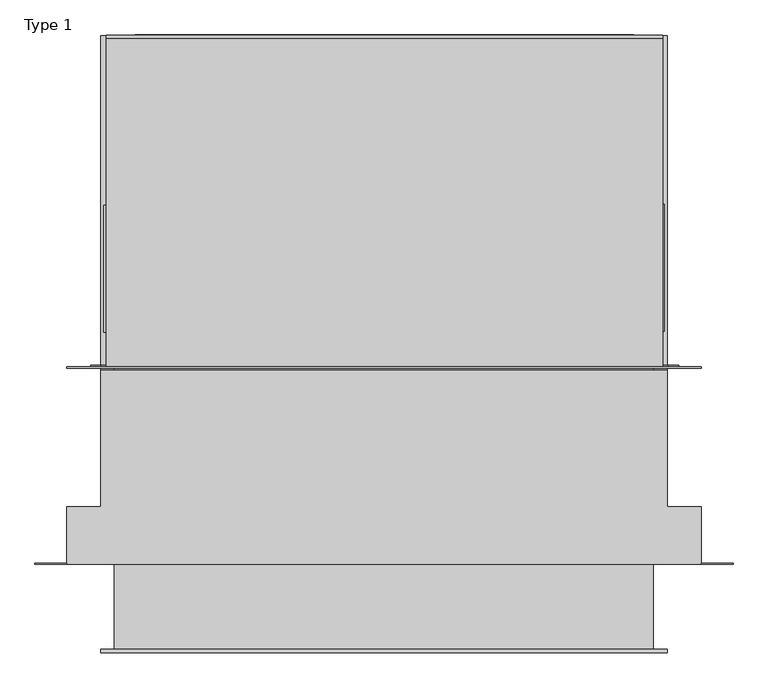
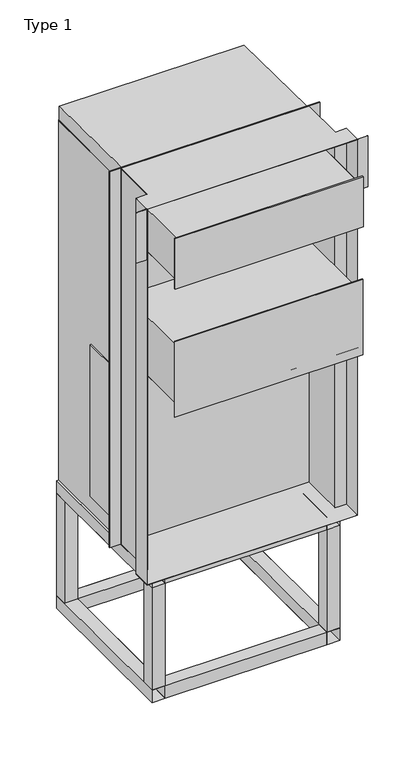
"""IFC4 building model written with IfcOpenShell, lengths in millimetres: proxy geometry, Uniflair_WMF0661_with_wallmountframe_and_Floorstand_BIM_Model : Type 1."""

import ifcopenshell
import ifcopenshell.guid

model = None  # the IFC model being written
_history = None  # IfcOwnerHistory: only IFC2X3 demands one
_inside = {}  # id of a spatial element -> (the spatial element, [elements in it])
_under = {}  # id of a project, library or spatial element -> (it, [spatial elements below it])
_declared = {}  # id of a project -> (the project, [libraries it declares])
_typed = {}  # id of a type object -> (the type object, [elements of that type])
_made_of = {}  # id of a material, layer set ... -> (it, [elements and type objects made of it])


def new_model(schema):
    """Start an empty IFC model of exactly this schema.

    Asked for "IFC4X3", IfcOpenShell would pick the latest addendum, in which some entities
    have other attributes; the version numbers below select the first issue.
    IFC2X3 requires an IfcOwnerHistory on every rooted entity: one is made here for all.
    """
    global model, _history
    if schema == "IFC4X3":
        model = ifcopenshell.file(schema_version=(4, 3, 0, 0))
    else:
        model = ifcopenshell.file(schema=schema)
    _inside.clear()
    _under.clear()
    _declared.clear()
    _typed.clear()
    _made_of.clear()
    _history = None
    if model.schema == "IFC2X3":
        org = make("IfcOrganization", Name="unknown")
        user = make(
            "IfcPersonAndOrganization",
            ThePerson=make("IfcPerson", FamilyName="unknown"),
            TheOrganization=org,
        )
        app = make(
            "IfcApplication",
            ApplicationDeveloper=org,
            Version="unknown",
            ApplicationFullName="unknown",
            ApplicationIdentifier="unknown",
        )
        _history = make(
            "IfcOwnerHistory",
            OwningUser=user,
            OwningApplication=app,
            ChangeAction="ADDED",
            CreationDate=0,
        )
    return model


def make(cls, **values):
    """One entity of the class cls with the attributes given. An attribute that is None is left unset."""
    return model.create_entity(
        cls, **{name: value for name, value in values.items() if value is not None}
    )


def rooted(cls, **values):
    """An entity with a GlobalId (a new one), such as an element, a storey or a relation."""
    return make(cls, GlobalId=ifcopenshell.guid.new(), OwnerHistory=_history, **values)


def si_unit(unit_type, name, prefix=None):
    """IfcSIUnit, for example si_unit("LENGTHUNIT", "METRE", prefix="MILLI")."""
    return make("IfcSIUnit", UnitType=unit_type, Prefix=prefix, Name=name)


def assignment(units):
    """IfcUnitAssignment: the units of a project."""
    return None if units is None else make("IfcUnitAssignment", Units=units)


def point(xyz):
    """IfcCartesianPoint."""
    return None if xyz is None else make("IfcCartesianPoint", Coordinates=xyz)


def direction(xyz):
    """IfcDirection."""
    return None if xyz is None else make("IfcDirection", DirectionRatios=xyz)


def frame(location, z_axis=None, x_axis=None):
    """IfcAxis2Placement3D, a coordinate frame: its origin and axes. An axis left out is left unset."""
    return make(
        "IfcAxis2Placement3D",
        Location=point(location),
        Axis=direction(z_axis),
        RefDirection=direction(x_axis),
    )


def frame_2d(location, x_axis=None):
    """IfcAxis2Placement2D, a coordinate frame in the plane: its origin and x axis."""
    return make(
        "IfcAxis2Placement2D", Location=point(location), RefDirection=direction(x_axis)
    )


def origin():
    """The frame at (0, 0, 0) with its axes left unset."""
    return frame((0.0, 0.0, 0.0))


def place(relative_to, where):
    """IfcLocalPlacement: puts the frame where relative to a parent placement (None: the world)."""
    return make(
        "IfcLocalPlacement", PlacementRelTo=relative_to, RelativePlacement=where
    )


def context(
    kind, dimensions, precision=None, world=None, true_north=None, identifier=None
):
    """IfcGeometricRepresentationContext, for example the 3D "Model" context."""
    return make(
        "IfcGeometricRepresentationContext",
        ContextIdentifier=identifier,
        ContextType=kind,
        CoordinateSpaceDimension=dimensions,
        Precision=precision,
        WorldCoordinateSystem=world,
        TrueNorth=true_north,
    )


def project(units=None, contexts=None):
    """IfcProject with its units and contexts."""
    return rooted(
        "IfcProject",
        Name="project",
        RepresentationContexts=contexts,
        UnitsInContext=assignment(units),
    )


def spatial(cls, under=None, at=None, **own):
    """A site, building, storey or space (cls), placed at a placement, below another one or the project."""
    s = rooted(cls, ObjectPlacement=at, **own)
    if under is not None:
        _under.setdefault(under.id(), (under, []))[1].append(s)
    return s


def polyline(points):
    """IfcPolyline through the points."""
    return make("IfcPolyline", Points=[point(p) for p in points])


def circle_curve(where, radius):
    """IfcCircle in the frame where."""
    return make("IfcCircle", Position=where, Radius=radius)


def trimmed(basis, trim1, trim2, sense, master):
    """IfcTrimmedCurve: the piece of a basis curve between two trims."""
    return make(
        "IfcTrimmedCurve",
        BasisCurve=basis,
        Trim1=trim1,
        Trim2=trim2,
        SenseAgreement=sense,
        MasterRepresentation=master,
    )


def segment(curve, same_sense, transition):
    """IfcCompositeCurveSegment."""
    return make(
        "IfcCompositeCurveSegment",
        Transition=transition,
        SameSense=same_sense,
        ParentCurve=curve,
    )


def composite_curve(segments, self_intersect=None):
    """IfcCompositeCurve: segments joined end to end."""
    return make("IfcCompositeCurve", Segments=segments, SelfIntersect=self_intersect)


def outline(outer, holes=None, kind="AREA"):
    """IfcArbitraryClosedProfileDef: a profile drawn as a closed curve; with holes, ...WithVoids."""
    if holes is None:
        return make("IfcArbitraryClosedProfileDef", ProfileType=kind, OuterCurve=outer)
    return make(
        "IfcArbitraryProfileDefWithVoids",
        ProfileType=kind,
        OuterCurve=outer,
        InnerCurves=holes,
    )


def extrude(swept, where, along, depth):
    """IfcExtrudedAreaSolid: the profile swept, set in the frame where, extruded along a direction by depth."""
    return make(
        "IfcExtrudedAreaSolid",
        SweptArea=swept,
        Position=where,
        ExtrudedDirection=direction(along),
        Depth=depth,
    )


def shape(context_of_items, identifier, shape_type, items):
    """IfcShapeRepresentation: the items that make up one representation, for example the "Body"."""
    return make(
        "IfcShapeRepresentation",
        ContextOfItems=context_of_items,
        RepresentationIdentifier=identifier,
        RepresentationType=shape_type,
        Items=items,
    )


def source(mapping_origin, context_of_items, identifier, shape_type, items):
    """IfcRepresentationMap: a shape defined once, which mapped items show again and again."""
    return make(
        "IfcRepresentationMap",
        MappingOrigin=mapping_origin,
        MappedRepresentation=shape(context_of_items, identifier, shape_type, items),
    )


def transform(
    local_origin,
    x_axis=None,
    y_axis=None,
    z_axis=None,
    scale=None,
    scale2=None,
    scale3=None,
    uniform=True,
):
    """IfcCartesianTransformationOperator3D, or its non-uniform kind. x_axis, y_axis, z_axis: its Axis1, 2, 3."""
    if uniform:
        return make(
            "IfcCartesianTransformationOperator3D",
            Axis1=direction(x_axis),
            Axis2=direction(y_axis),
            LocalOrigin=point(local_origin),
            Scale=scale,
            Axis3=direction(z_axis),
        )
    return make(
        "IfcCartesianTransformationOperator3DnonUniform",
        Axis1=direction(x_axis),
        Axis2=direction(y_axis),
        LocalOrigin=point(local_origin),
        Scale=scale,
        Axis3=direction(z_axis),
        Scale2=scale2,
        Scale3=scale3,
    )


def mapped(mapping_source, mapping_target):
    """IfcMappedItem: shows the shape of a source again, moved by a transform."""
    return make(
        "IfcMappedItem", MappingSource=mapping_source, MappingTarget=mapping_target
    )


def made_of(thing, what):
    """Note that an element or type object is made of a material, layer set ...; save() writes the relation."""
    if what is not None:
        _made_of.setdefault(what.id(), (what, []))[1].append(thing)
    return thing


def element(
    cls,
    number,
    at=None,
    inside=None,
    cuts=None,
    type_object=None,
    material=None,
    context=None,
    identifier="Body",
    shape_type=None,
    held_by="IfcProductDefinitionShape",
    body=None,
    shapes=None,
    **own,
):
    """One element of the class cls, such as IfcWall. Its Tag is "e" and its number.

    at: its placement. inside: the storey or other place that contains it. cuts: it is an
    opening in that element (IfcRelVoidsElement). A single representation is given by context,
    identifier, shape_type and body (its items); several are given by shapes. held_by: the class
    of the entity that holds the representations. save() writes the other relations.
    """
    e = rooted(cls, Tag="e%d" % number, ObjectPlacement=at, **own)
    if body is not None:
        shapes = [shape(context, identifier, shape_type, body)]
    if shapes is not None:
        e.Representation = make(held_by, Representations=shapes)
    if inside is not None:
        _inside.setdefault(inside.id(), (inside, []))[1].append(e)
    if cuts is not None:
        rooted(
            "IfcRelVoidsElement", RelatingBuildingElement=cuts, RelatedOpeningElement=e
        )
    if type_object is not None:
        _typed.setdefault(type_object.id(), (type_object, []))[1].append(e)
    return made_of(e, material)


def aggregate(whole, parts):
    """IfcRelAggregates: a whole, such as a stair, and the parts it consists of."""
    return rooted("IfcRelAggregates", RelatingObject=whole, RelatedObjects=parts)


def save(model, path):
    """Write the relations noted so far, then the file.

    IfcRelAggregates (storeys below a building ...), IfcRelContainedInSpatialStructure (elements
    in a storey), IfcRelDefinesByType, IfcRelAssociatesMaterial and IfcRelDeclares: one each for
    every whole, place, type object, material and project.
    """
    for whole, parts in _under.values():
        aggregate(whole, parts)
    for where, things in _inside.values():
        rooted(
            "IfcRelContainedInSpatialStructure",
            RelatedElements=things,
            RelatingStructure=where,
        )
    for kind, things in _typed.values():
        rooted("IfcRelDefinesByType", RelatedObjects=things, RelatingType=kind)
    for what, things in _made_of.values():
        rooted("IfcRelAssociatesMaterial", RelatedObjects=things, RelatingMaterial=what)
    for by, libraries in _declared.values():
        rooted("IfcRelDeclares", RelatingContext=by, RelatedDefinitions=libraries)
    model.write(path)


def type_1_7764bf48(model_context):
    return source(origin(), model_context, "Body", "SweptSolid", [
        extrude(outline(polyline([(104.7443301, 76.0), (180.7443301, 76.0), (180.7443301, 0.0), (104.7443301, 0.0), (104.7443301, 76.0)]), holes=[polyline([(179.7443301, 1.0), (179.7443301, 74.9894519), (105.7443301, 74.9894519), (105.7443301, 1.0), (179.7443301, 1.0)])]), frame((-458.5, 0.0, 0.0), z_axis=(1.0, 0.0, 0.0), x_axis=(0.0, 1.0, 0.0)), (0.0, 0.0, 1.0), 917.0),
        extrude(outline(polyline([(1040.7443301, 76.0), (1040.7443301, 0.0), (964.7443301, 0.0), (964.7443301, 76.0), (1040.7443301, 76.0)]), holes=[polyline([(965.7443301, 1.0), (1039.7443301, 1.0), (1039.7443301, 74.9894519), (965.7443301, 74.9894519), (965.7443301, 1.0)])]), frame((-458.5, 0.0, 0.0), z_axis=(1.0, 0.0, 0.0), x_axis=(0.0, 1.0, 0.0)), (0.0, 0.0, 1.0), 917.0),
        extrude(outline(polyline([(1040.7443301, 690.0), (964.7443301, 690.0), (964.7443301, 766.0), (1040.7443301, 766.0), (1040.7443301, 690.0)]), holes=[polyline([(965.7443301, 765.0), (965.7443301, 691.0), (1039.7443301, 691.0), (1039.7443301, 765.0), (965.7443301, 765.0)])]), frame((-458.5, 0.0, 0.0), z_axis=(1.0, 0.0, 0.0), x_axis=(0.0, 1.0, 0.0)), (0.0, 0.0, 1.0), 917.0),
        extrude(outline(polyline([(104.7443301, 690.0), (104.7443301, 766.0), (180.7443301, 766.0), (180.7443301, 690.0), (104.7443301, 690.0)]), holes=[polyline([(179.7443301, 765.0), (105.7443301, 765.0), (105.7443301, 691.0), (179.7443301, 691.0), (179.7443301, 765.0)])]), frame((-458.5, 0.0, 0.0), z_axis=(1.0, 0.0, 0.0), x_axis=(0.0, 1.0, 0.0)), (0.0, 0.0, 1.0), 917.0),
        extrude(outline(polyline([(0.0, -458.5), (76.0, -458.5), (76.0, -534.5), (0.0, -534.5), (0.0, -458.5)]), holes=[polyline([(75.0, -533.5), (75.0, -459.5), (1.0, -459.5), (1.0, -533.5), (75.0, -533.5)])]), frame((0.0, 104.7443301, 0.0), z_axis=(0.0, 1.0, 0.0), x_axis=(0.0, 0.0, 1.0)), (0.0, 0.0, 1.0), 936.0),
        extrude(outline(polyline([(0.0, 458.5), (0.0, 534.5), (76.0, 534.5), (76.0, 458.5), (0.0, 458.5)]), holes=[polyline([(74.9894519, 533.5), (1.0, 533.5), (1.0, 459.5), (74.9894519, 459.5), (74.9894519, 533.5)])]), frame((0.0, 104.7443301, 0.0), z_axis=(0.0, 1.0, 0.0), x_axis=(0.0, 0.0, 1.0)), (0.0, 0.0, 1.0), 936.0),
        extrude(outline(polyline([(766.0, 458.5), (690.0, 458.5), (690.0, 534.5), (766.0, 534.5), (766.0, 458.5)]), holes=[polyline([(691.0, 533.5), (691.0, 459.5), (765.0, 459.5), (765.0, 533.5), (691.0, 533.5)])]), frame((0.0, 104.7443301, 0.0), z_axis=(0.0, 1.0, 0.0), x_axis=(0.0, 0.0, 1.0)), (0.0, 0.0, 1.0), 936.0),
        extrude(outline(polyline([(766.0, -458.5), (766.0, -534.5), (690.0, -534.5), (690.0, -458.5), (766.0, -458.5)]), holes=[polyline([(691.0, -533.5), (765.0, -533.5), (765.0, -459.5), (691.0, -459.5), (691.0, -533.5)])]), frame((0.0, 104.7443301, 0.0), z_axis=(0.0, 1.0, 0.0), x_axis=(0.0, 0.0, 1.0)), (0.0, 0.0, 1.0), 936.0),
        extrude(outline(polyline([(458.5, 104.7443301), (458.5, 180.7443301), (534.5, 180.7443301), (534.5, 104.7443301), (458.5, 104.7443301)]), holes=[polyline([(533.5, 105.7443301), (533.5, 179.7443301), (459.5, 179.7443301), (459.5, 105.7443301), (533.5, 105.7443301)])]), frame((0.0, 0.0, 76.0), z_axis=(0.0, 0.0, 1.0), x_axis=(1.0, 0.0, 0.0)), (0.0, 0.0, 1.0), 614.0),
        extrude(outline(polyline([(-458.5, 104.7443301), (-534.5, 104.7443301), (-534.5, 180.7443301), (-458.5, 180.7443301), (-458.5, 104.7443301)]), holes=[polyline([(-533.5, 105.7443301), (-459.5, 105.7443301), (-459.5, 179.7443301), (-533.5, 179.7443301), (-533.5, 105.7443301)])]), frame((0.0, 0.0, 76.0), z_axis=(0.0, 0.0, 1.0), x_axis=(1.0, 0.0, 0.0)), (0.0, 0.0, 1.0), 614.0),
        extrude(outline(polyline([(458.5, 1040.7443301), (534.5, 1040.7443301), (534.5, 964.7443301), (458.5, 964.7443301), (458.5, 1040.7443301)]), holes=[polyline([(533.5, 1039.7443301), (459.5, 1039.7443301), (459.5, 965.7443301), (533.5, 965.7443301), (533.5, 1039.7443301)])]), frame((0.0, 0.0, 76.0), z_axis=(0.0, 0.0, 1.0), x_axis=(1.0, 0.0, 0.0)), (0.0, 0.0, 1.0), 614.0),
        extrude(outline(polyline([(-458.5, 1040.7443301), (-458.5, 964.7443301), (-534.5, 964.7443301), (-534.5, 1040.7443301), (-458.5, 1040.7443301)]), holes=[polyline([(-533.5, 1039.7443301), (-533.5, 965.7443301), (-459.5, 965.7443301), (-459.5, 1039.7443301), (-533.5, 1039.7443301)])]), frame((0.0, 0.0, 76.0), z_axis=(0.0, 0.0, 1.0), x_axis=(1.0, 0.0, 0.0)), (0.0, 0.0, 1.0), 614.0),
        extrude(outline(polyline([(523.8018802, 483.0425908), (523.8018802, 723.0425908), (529.0, 723.0425908), (529.0, 483.0425908), (523.8018802, 483.0425908)])), frame((0.0, 0.0, 862.8466177), z_axis=(0.0, 0.0, 1.0), x_axis=(1.0, 0.0, 0.0)), (0.0, 0.0, 1.0), 911.3275465),
        extrude(outline(composite_curve([segment(trimmed(circle_curve(frame_2d((2763.0043914, 449.5834139)), 20.0), [point((2763.0043914, 469.5834139))], [point((2763.0043914, 429.5834139))], False, "CARTESIAN"), True, "CONTINUOUS"), segment(trimmed(circle_curve(frame_2d((2763.0043914, 449.5834139)), 20.0), [point((2763.0043914, 429.5834139))], [point((2763.0043914, 469.5834139))], False, "CARTESIAN"), True, "CONTINUOUS")], self_intersect=False)), frame((0.0, 412.8268395, 0.0), z_axis=(0.0, 1.0, 0.0), x_axis=(0.0, 0.0, 1.0)), (0.0, 0.0, 1.0), 3.0),
        extrude(outline(composite_curve([segment(trimmed(circle_curve(frame_2d((2763.0043914, -449.5834139)), 20.0), [point((2763.0043914, -469.5834139))], [point((2763.0043914, -429.5834139))], False, "CARTESIAN"), True, "CONTINUOUS"), segment(trimmed(circle_curve(frame_2d((2763.0043914, -449.5834139)), 20.0), [point((2763.0043914, -429.5834139))], [point((2763.0043914, -469.5834139))], False, "CARTESIAN"), True, "CONTINUOUS")], self_intersect=False)), frame((0.0, 412.8268395, 0.0), z_axis=(0.0, 1.0, 0.0), x_axis=(0.0, 0.0, 1.0)), (0.0, 0.0, 1.0), 3.0),
        extrude(outline(polyline([(2977.443345, -553.6016093), (827.1769097, -553.6016093), (795.3181071, -521.7428067), (795.3178142, 524.5388953), (827.1769097, 556.398405), (2977.4437593, 556.398405), (2997.5199213, 536.3223685), (2997.5199213, -533.5255729), (2977.443345, -553.6016093)])), frame((0.0, 415.8268395, 0.0), z_axis=(0.0, 1.0, 0.0), x_axis=(0.0, 0.0, 1.0)), (0.0, 0.0, 1.0), 3.0),
        extrude(outline(polyline([(-523.8018802, 721.0832834), (-523.8018802, 481.0832834), (-529.0, 481.0832834), (-529.0, 721.0832834), (-523.8018802, 721.0832834)])), frame((0.0, 0.0, 862.8466177), z_axis=(0.0, 0.0, 1.0), x_axis=(1.0, 0.0, 0.0)), (0.0, 0.0, 1.0), 911.3275465),
        extrude(outline(polyline([(-468.8041663, 1041.8268395), (471.1958337, 1041.8268395), (471.1958337, 1040.8268395), (-468.8041663, 1040.8268395), (-468.8041663, 1041.8268395)])), frame((0.0, 0.0, 1820.2781805), z_axis=(0.0, 0.0, 1.0), x_axis=(1.0, 0.0, 0.0)), (0.0, 0.0, 1.0), 380.0),
        extrude(outline(polyline([(-493.8018802, 1041.8268395), (201.1981198, 1041.8268395), (201.1981198, 1040.8268395), (-493.8018802, 1040.8268395), (-493.8018802, 1041.8268395)])), frame((0.0, 0.0, 858.3506603), z_axis=(0.0, 0.0, 1.0), x_axis=(1.0, 0.0, 0.0)), (0.0, 0.0, 1.0), 631.3275465),
        extrude(outline(polyline([(1034.8675321, 2921.6241394), (414.8675321, 2929.4235231), (414.8675321, 3019.0), (1034.8675321, 3011.170139), (1034.8675321, 2921.6241394)])), frame((-523.8018802, 0.0, 0.0), z_axis=(1.0, 0.0, 0.0), x_axis=(0.0, 1.0, 0.0)), (0.0, 0.0, 1.0), 1049.9976998),
        extrude(outline(polyline([(2928.3296054, -523.8018802), (767.7926473, -523.8018802), (767.7926473, -519.8031702), (769.0139798, -519.8031702), (769.0139798, 522.2010067), (768.1751637, 522.200797), (768.1751637, 526.1968269), (2928.3296054, 526.1958388), (2928.3296054, -523.8018802)])), frame((0.0, 415.8268395, 0.0), z_axis=(0.0, 1.0, 0.0), x_axis=(0.0, 0.0, 1.0)), (0.0, 0.0, 1.0), 625.0),
        extrude(outline(polyline([(2253.0, 508.09413), (2253.0, -508.5), (1901.0, -508.5), (1901.0, 508.09413), (2253.0, 508.09413)]), holes=[polyline([(1902.0, -507.5), (2252.0, -507.5), (2252.0, 507.09413), (1902.0, 507.09413), (1902.0, -507.5)])]), frame((0.0, -117.3124501, 0.0), z_axis=(0.0, 1.0, 0.0), x_axis=(0.0, 0.0, 1.0)), (0.0, 0.0, 1.0), 530.1392896),
        extrude(outline(polyline([(-598.0, 43.7443301), (-658.5, 43.7443301), (-658.5, 44.7505328), (-598.0, 44.7505328), (-598.0, 43.7443301)])), frame((0.0, 0.0, 2717.0), z_axis=(0.0, 0.0, 1.0), x_axis=(1.0, 0.0, 0.0)), (0.0, 0.0, 1.0), 305.0),
        extrude(outline(polyline([(658.5, 43.7443301), (598.0, 43.7443301), (598.0, 44.8880699), (658.5, 44.8880699), (658.5, 43.7443301)])), frame((0.0, 0.0, 2717.0), z_axis=(0.0, 0.0, 1.0), x_axis=(1.0, 0.0, 0.0)), (0.0, 0.0, 1.0), 305.0),
        extrude(outline(polyline([(534.09413, 408.8268395), (534.09413, 151.8268395), (598.0, 151.8268395), (598.0, 43.7443301), (-598.0, 43.7443301), (-598.0, 151.8268395), (-534.5, 151.8268395), (-534.5, 408.8268395), (534.09413, 408.8268395)])), frame((0.0, 0.0, 3020.5646059), z_axis=(0.0, 0.0, 1.0), x_axis=(1.0, 0.0, 0.0)), (0.0, 0.0, 1.0), 1.4353941),
        extrude(outline(polyline([(534.09413, 408.8268395), (534.09413, 151.8268395), (598.0, 151.8268395), (598.0, 43.7443301), (-598.0, 43.7443301), (-598.0, 151.8268395), (-534.5, 151.8268395), (-534.5, 408.8268395), (534.09413, 408.8268395)])), frame((0.0, 0.0, 766.0), z_axis=(0.0, 0.0, 1.0), x_axis=(1.0, 0.0, 0.0)), (0.0, 0.0, 1.0), 1.4302096),
        extrude(outline(polyline([(534.5, -119.3124501), (-534.5, -119.3124501), (-534.5, -117.3124501), (534.5, -117.3124501), (534.5, -119.3124501)])), frame((0.0, 0.0, 1849.7834305), z_axis=(0.0, 0.0, 1.0), x_axis=(1.0, 0.0, 0.0)), (0.0, 0.0, 1.0), 454.0),
        extrude(outline(polyline([(2897.0, 508.09413), (2897.0, -508.5), (2645.0, -508.5), (2645.0, 508.09413), (2897.0, 508.09413)]), holes=[polyline([(2896.0, 507.09413), (2646.0, 507.09413), (2646.0, -507.5), (2896.0, -507.5), (2896.0, 507.09413)])]), frame((0.0, -117.3124501, 0.0), z_axis=(0.0, 1.0, 0.0), x_axis=(0.0, 0.0, 1.0)), (0.0, 0.0, 1.0), 530.1392896),
        extrude(outline(polyline([(534.5, -123.3124501), (-534.5, -123.3124501), (-534.5, -117.3124501), (534.5, -117.3124501), (534.5, -123.3124501)])), frame((0.0, 0.0, 2620.0), z_axis=(0.0, 0.0, 1.0), x_axis=(1.0, 0.0, 0.0)), (0.0, 0.0, 1.0), 302.0),
        extrude(outline(polyline([(-534.5, 151.8268395), (-534.5, 408.8268395), (534.09413, 408.8268395), (534.09413, 151.8268395), (598.0, 151.8268395), (598.0, 43.7443301), (597.0, 43.7443301), (597.0, 150.8268395), (533.09413, 150.8268395), (533.09413, 407.8268395), (-533.5, 407.8268395), (-533.5, 150.8268395), (-597.0, 150.8268395), (-597.0, 43.7443301), (-598.0, 43.7443301), (-598.0, 151.8268395), (-534.5, 151.8268395)])), frame((0.0, 0.0, 767.4302096), z_axis=(0.0, 0.0, 1.0), x_axis=(1.0, 0.0, 0.0)), (0.0, 0.0, 1.0), 2253.1343963),
        extrude(outline(polyline([(598.0, 412.8268395), (-598.0, 412.8268395), (-598.0, 415.8268395), (598.0, 415.8268395), (598.0, 412.8268395)])), frame((0.0, 0.0, 766.0), z_axis=(0.0, 0.0, 1.0), x_axis=(1.0, 0.0, 0.0)), (0.0, 0.0, 1.0), 2256.0),
    ])


if __name__ == "__main__":
    model = new_model("IFC4")
    model_context = context("Model", 3, world=origin())
    ifc_project = project(units=[si_unit("LENGTHUNIT", "METRE", prefix="MILLI")], contexts=[model_context])
    site = spatial("IfcSite", under=ifc_project)
    building = spatial("IfcBuilding", under=site)
    placement = place(None, origin())
    type_1_shape = type_1_7764bf48(model_context)
    element("IfcBuildingElementProxy", 1, Name="Uniflair_WMF0661_with_wallmountframe_and_Floorstand_BIM_Model : Type 1", ObjectType="Uniflair_WMF0661_with_wallmountframe_and_Floorstand_BIM_Model : Type 1", at=placement, inside=building, context=model_context, shape_type="MappedRepresentation", body=[
        mapped(type_1_shape, transform((0.0, 0.0, 0.0), x_axis=(1.0, 0.0, 0.0), y_axis=(0.0, 1.0, 0.0), z_axis=(0.0, 0.0, 1.0))),
    ])
    save(model, "model.ifc")
